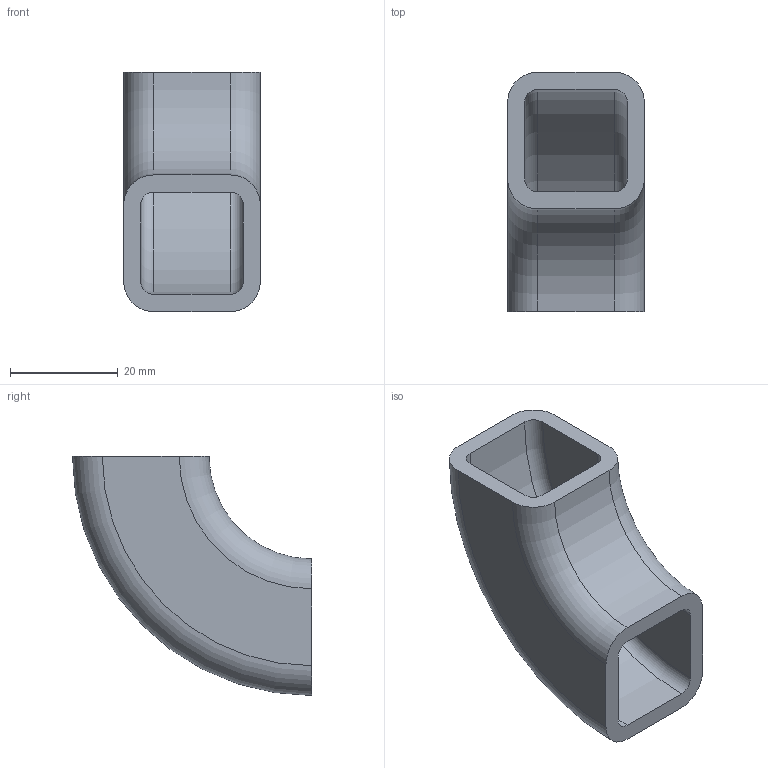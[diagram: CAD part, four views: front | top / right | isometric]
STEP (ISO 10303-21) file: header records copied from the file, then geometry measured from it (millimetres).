
FILE_DESCRIPTION((''),'2;1');
FILE_NAME('C:\Documents and Settings\bamfomg\Desktop\Owens corners\STP FILES\1x1x0.125 - Steel.stp','2011-03-21T13:11:51',('bamfomg'),(''),'Autodesk Inventor 2011','Autodesk Inventor 2011','');
FILE_SCHEMA(('AUTOMOTIVE_DESIGN { 1 0 10303 214 1 1 1 1 }'));
Length unit declared in the file: inch
Products named in the file (1): Square Tube Corners
Bounding box: 25.4 x 44.45 x 44.45 mm (x, y, z)
Volume: 12998.1 mm3; surface area: 8709 mm2
Topology: 1 solids, 1 shells, 18 faces, 48 edges, 32 vertices
Faces by surface type: torus 8, plane 6, cylinder 4
Entity records: 616 total; most frequent: DIRECTION 118, CARTESIAN_POINT 99, ORIENTED_EDGE 96, AXIS2_PLACEMENT_3D 51, EDGE_CURVE 48, VERTEX_POINT 32, CIRCLE 32, EDGE_LOOP 20
